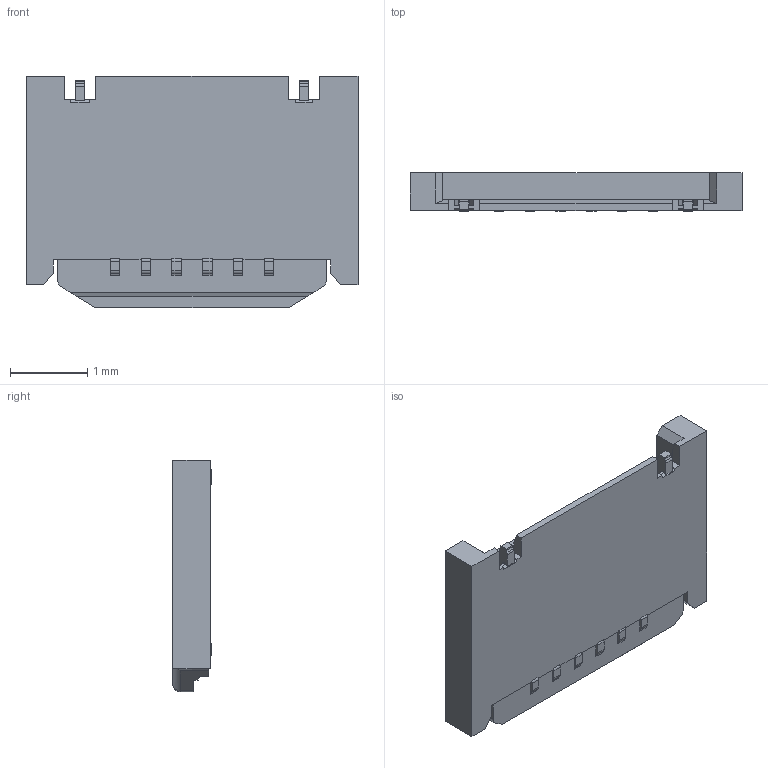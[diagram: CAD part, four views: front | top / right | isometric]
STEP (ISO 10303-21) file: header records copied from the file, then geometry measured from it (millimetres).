
FILE_DESCRIPTION (( 'STEP AP203' ), '1' );
FILE_NAME ('20588-006E-01 ACT CLOSE ASSY STEP R4 ALL.STEP', '2014-10-31T05:39:10', ( '' ), ( '' ), 'SwSTEP 2.0', 'SolidWorks 2012', '' );
FILE_SCHEMA (( 'CONFIG_CONTROL_DESIGN' ));
Length unit declared in the file: millimetre
Products named in the file (1): 20588-006E-01 ACT CLOSE ASSY STEP R4 ALL
Bounding box: 4.3 x 0.5 x 3 mm (x, y, z)
Volume: 5.4 mm3; surface area: 32.4 mm2
Topology: 1 solids, 1 shells, 134 faces, 392 edges, 258 vertices
Faces by surface type: plane 99, cylinder 33, sphere 2
Entity records: 4465 total; most frequent: CARTESIAN_POINT 795, ORIENTED_EDGE 780, DIRECTION 718, EDGE_CURVE 390, LINE 324, VECTOR 324, VERTEX_POINT 258, AXIS2_PLACEMENT_3D 197
